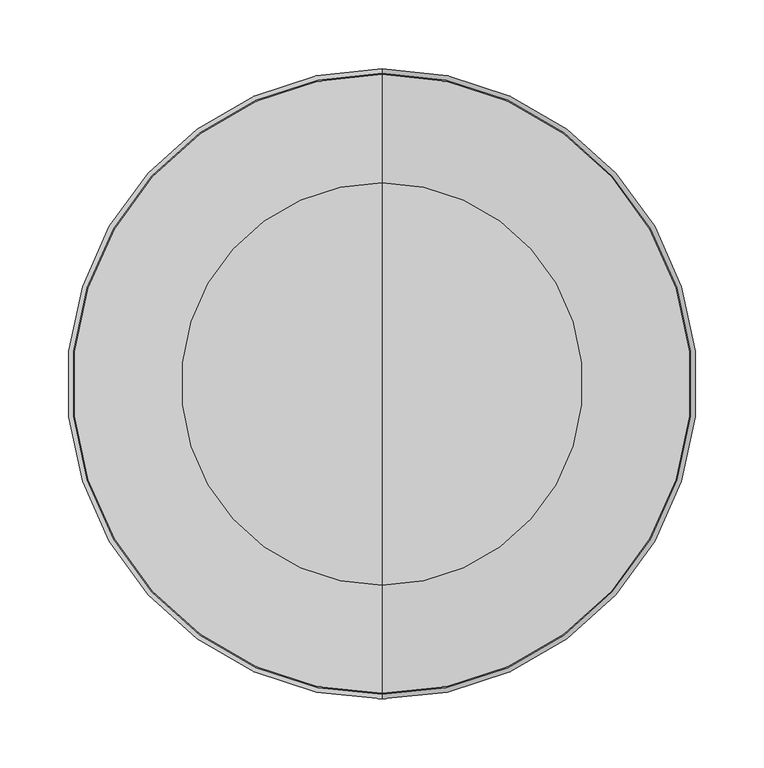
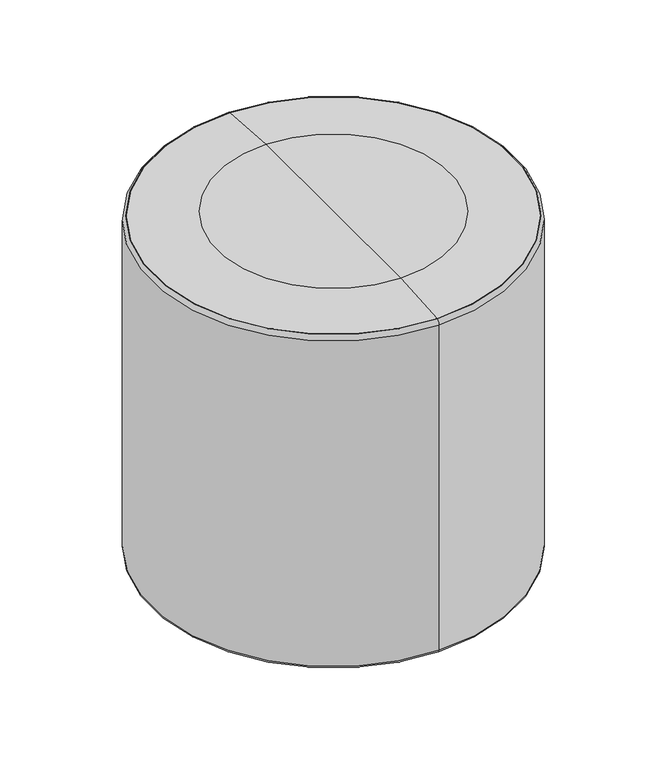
"""IFC4 building model written with IfcOpenShell, lengths in millimetres: furniture geometry, Indiana-Otty-Ottoman_Round : 840-1818RO."""

from ifc_helpers import new_model, si_unit, point, frame, origin, place, context, project, spatial, polyline, circle_curve, ellipse_curve, trimmed, source, transform, mapped, element, save
from ifc_brep_helpers import plane_surface, cylinder_surface, revolved_surface, advanced_brep


def furniture_b2d44463(model_context):
    return source(origin(), model_context, "Body", "AdvancedBrep", [
        advanced_brep(
        [(126.4514457, -129.4834071, 19.8875), (126.4514457, -106.9834071, 19.8875), (126.4514457, -151.9834071, 19.8875), (126.4514457, -107.4318989, 4.2458827), (126.4514457, -151.5349153, 4.2458827), (126.4514457, -111.9170406, -0.1125), (126.4514457, -147.0497736, -0.1125), (126.4514457, -119.2157893, -0.1125), (126.4514457, -139.7510249, -0.1125), (126.4514457, -123.1102654, 3.9179615), (126.4514457, -135.8565488, 3.9179615), (126.4514457, -129.4834071, 3.9179615)],
        [
            (0, 1),
            (1, 2, circle_curve(frame((126.4514457, -129.4834071, 19.8875), z_axis=(0.0, 0.0, 1.0), x_axis=(0.0, 1.0, 0.0)), 22.5)),
            (2, 0),
            (2, 1, circle_curve(frame((126.4514457, -129.4834071, 19.8875), z_axis=(0.0, 0.0, 1.0), x_axis=(0.0, 1.0, 0.0)), 22.5)),
            (1, 3),
            (3, 4, circle_curve(frame((126.4514457, -129.4834071, 4.2458827), z_axis=(0.0, 0.0, 1.0), x_axis=(0.0, 1.0, 0.0)), 22.0515082)),
            (4, 2),
            (4, 3, circle_curve(frame((126.4514457, -129.4834071, 4.2458827), z_axis=(0.0, 0.0, 1.0), x_axis=(0.0, 1.0, 0.0)), 22.0515082)),
            (3, 5, circle_curve(frame((126.4514457, -111.9170406, 4.3744851), z_axis=(-1.0, 0.0, 0.0), x_axis=(0.0, -1.0, 0.0)), 4.4869851)),
            (5, 6, circle_curve(frame((126.4514457, -129.4834071, -0.1125), z_axis=(0.0, 0.0, 1.0), x_axis=(0.0, 1.0, 0.0)), 17.5663665)),
            (6, 4, circle_curve(frame((126.4514457, -147.0497736, 4.3744851), z_axis=(-1.0, 0.0, 0.0), x_axis=(0.0, 1.0, 0.0)), 4.4869851)),
            (6, 5, circle_curve(frame((126.4514457, -129.4834071, -0.1125), z_axis=(0.0, 0.0, 1.0), x_axis=(0.0, 1.0, 0.0)), 17.5663665)),
            (5, 7),
            (7, 8, circle_curve(frame((126.4514457, -129.4834071, -0.1125), z_axis=(0.0, 0.0, 1.0), x_axis=(0.0, 1.0, 0.0)), 10.2676178)),
            (8, 6),
            (8, 7, circle_curve(frame((126.4514457, -129.4834071, -0.1125), z_axis=(0.0, 0.0, 1.0), x_axis=(0.0, 1.0, 0.0)), 10.2676178)),
            (7, 9, circle_curve(frame((126.4514457, -119.2157893, 3.7842702), z_axis=(-1.0, 0.0, 0.0), x_axis=(0.0, -1.0, 0.0)), 3.8967702)),
            (9, 10, circle_curve(frame((126.4514457, -129.4834071, 3.9179615), z_axis=(0.0, 0.0, 1.0), x_axis=(0.0, 1.0, 0.0)), 6.3731417)),
            (10, 8, circle_curve(frame((126.4514457, -139.7510249, 3.7842702), z_axis=(-1.0, 0.0, 0.0), x_axis=(0.0, 1.0, 0.0)), 3.8967702)),
            (10, 9, circle_curve(frame((126.4514457, -129.4834071, 3.9179615), z_axis=(0.0, 0.0, 1.0), x_axis=(0.0, 1.0, 0.0)), 6.3731417)),
            (9, 11),
            (11, 10),
        ],
        [
            plane_surface(frame((126.4514457, -129.4834071, 19.8875), z_axis=(0.0, 0.0, 1.0), x_axis=(0.0, 1.0, 0.0))),
            revolved_surface(polyline([(126.4514457, -107.4318989, 4.2458827), (126.4514457, -106.9834071, 19.8875)]), (126.4514457, -129.4834071, 31.0803862), (0.0, 0.0, 1.0)),
            revolved_surface(trimmed(ellipse_curve(frame((126.4514457, -111.9170406, 4.3744851), z_axis=(1.0, 0.0, 0.0), x_axis=(0.0, -1.0, 0.0)), 4.4869851, 4.4869851), [point((126.4514457, -111.9170406, -0.1125))], [point((126.4514457, -107.4318989, 4.2458827))], True, "CARTESIAN"), (126.4514457, -129.4834071, 31.0803862), (0.0, 0.0, 1.0)),
            plane_surface(frame((126.4514457, -129.4834071, -0.1125), z_axis=(0.0, 0.0, -1.0), x_axis=(0.0, 1.0, 0.0))),
            revolved_surface(trimmed(ellipse_curve(frame((126.4514457, -119.2157893, 3.7842702), z_axis=(1.0, 0.0, 0.0), x_axis=(0.0, -1.0, 0.0)), 3.8967702, 3.8967702), [point((126.4514457, -123.1102654, 3.9179615))], [point((126.4514457, -119.2157893, -0.1125))], True, "CARTESIAN"), (126.4514457, -129.4834071, 31.0803862), (0.0, 0.0, 1.0)),
            plane_surface(frame((126.4514457, -129.4834071, 3.9179615), z_axis=(0.0, 0.0, -1.0), x_axis=(0.0, 1.0, 0.0))),
        ],
        [
            (0, [[1, 2, 3]]),
            (0, [[-3, 4, -1]]),
            (1, [[-2, 5, 6, 7]]),
            (1, [[-4, -7, 8, -5]]),
            (2, [[-6, 9, 10, 11]]),
            (2, [[-8, -11, 12, -9]]),
            (3, [[-10, 13, 14, 15]]),
            (3, [[-12, -15, 16, -13]]),
            (4, [[-14, 17, 18, 19]]),
            (4, [[-16, -19, 20, -17]]),
            (5, [[-18, 21, 22]]),
            (5, [[-20, -22, -21]]),
        ],
    ),
        advanced_brep(
        [(-129.4834071, -126.4514457, 19.8875), (-106.9834071, -126.4514457, 19.8875), (-151.9834071, -126.4514457, 19.8875), (-107.4318989, -126.4514457, 4.2458827), (-151.5349153, -126.4514457, 4.2458827), (-111.9170406, -126.4514457, -0.1125), (-147.0497736, -126.4514457, -0.1125), (-119.2157893, -126.4514457, -0.1125), (-139.7510249, -126.4514457, -0.1125), (-123.1102654, -126.4514457, 3.9179615), (-135.8565488, -126.4514457, 3.9179615), (-129.4834071, -126.4514457, 3.9179615)],
        [
            (0, 1),
            (1, 2, circle_curve(frame((-129.4834071, -126.4514457, 19.8875), z_axis=(0.0, 0.0, 1.0), x_axis=(1.0, 0.0, 0.0)), 22.5)),
            (2, 0),
            (2, 1, circle_curve(frame((-129.4834071, -126.4514457, 19.8875), z_axis=(0.0, 0.0, 1.0), x_axis=(1.0, 0.0, 0.0)), 22.5)),
            (1, 3),
            (3, 4, circle_curve(frame((-129.4834071, -126.4514457, 4.2458827), z_axis=(0.0, 0.0, 1.0), x_axis=(1.0, 0.0, 0.0)), 22.0515082)),
            (4, 2),
            (4, 3, circle_curve(frame((-129.4834071, -126.4514457, 4.2458827), z_axis=(0.0, 0.0, 1.0), x_axis=(1.0, 0.0, 0.0)), 22.0515082)),
            (3, 5, circle_curve(frame((-111.9170406, -126.4514457, 4.3744851), z_axis=(0.0, 1.0, 0.0), x_axis=(-1.0, 0.0, 0.0)), 4.4869851)),
            (5, 6, circle_curve(frame((-129.4834071, -126.4514457, -0.1125), z_axis=(0.0, 0.0, 1.0), x_axis=(1.0, 0.0, 0.0)), 17.5663665)),
            (6, 4, circle_curve(frame((-147.0497736, -126.4514457, 4.3744851), z_axis=(0.0, 1.0, 0.0), x_axis=(1.0, 0.0, 0.0)), 4.4869851)),
            (6, 5, circle_curve(frame((-129.4834071, -126.4514457, -0.1125), z_axis=(0.0, 0.0, 1.0), x_axis=(1.0, 0.0, 0.0)), 17.5663665)),
            (5, 7),
            (7, 8, circle_curve(frame((-129.4834071, -126.4514457, -0.1125), z_axis=(0.0, 0.0, 1.0), x_axis=(1.0, 0.0, 0.0)), 10.2676178)),
            (8, 6),
            (8, 7, circle_curve(frame((-129.4834071, -126.4514457, -0.1125), z_axis=(0.0, 0.0, 1.0), x_axis=(1.0, 0.0, 0.0)), 10.2676178)),
            (7, 9, circle_curve(frame((-119.2157893, -126.4514457, 3.7842702), z_axis=(0.0, 1.0, 0.0), x_axis=(-1.0, 0.0, 0.0)), 3.8967702)),
            (9, 10, circle_curve(frame((-129.4834071, -126.4514457, 3.9179615), z_axis=(0.0, 0.0, 1.0), x_axis=(1.0, 0.0, 0.0)), 6.3731417)),
            (10, 8, circle_curve(frame((-139.7510249, -126.4514457, 3.7842702), z_axis=(0.0, 1.0, 0.0), x_axis=(1.0, 0.0, 0.0)), 3.8967702)),
            (10, 9, circle_curve(frame((-129.4834071, -126.4514457, 3.9179615), z_axis=(0.0, 0.0, 1.0), x_axis=(1.0, 0.0, 0.0)), 6.3731417)),
            (9, 11),
            (11, 10),
        ],
        [
            plane_surface(frame((-129.4834071, -126.4514457, 19.8875), z_axis=(0.0, 0.0, 1.0), x_axis=(1.0, 0.0, 0.0))),
            revolved_surface(polyline([(-107.4318989, -126.4514457, 4.2458827), (-106.9834071, -126.4514457, 19.8875)]), (-129.4834071, -126.4514457, 31.0803862), (0.0, 0.0, 1.0)),
            revolved_surface(trimmed(ellipse_curve(frame((-111.9170406, -126.4514457, 4.3744851), z_axis=(0.0, -1.0, 0.0), x_axis=(-1.0, 0.0, 0.0)), 4.4869851, 4.4869851), [point((-111.9170406, -126.4514457, -0.1125))], [point((-107.4318989, -126.4514457, 4.2458827))], True, "CARTESIAN"), (-129.4834071, -126.4514457, 31.0803862), (0.0, 0.0, 1.0)),
            plane_surface(frame((-129.4834071, -126.4514457, -0.1125), z_axis=(0.0, 0.0, -1.0), x_axis=(1.0, 0.0, 0.0))),
            revolved_surface(trimmed(ellipse_curve(frame((-119.2157893, -126.4514457, 3.7842702), z_axis=(0.0, -1.0, 0.0), x_axis=(-1.0, 0.0, 0.0)), 3.8967702, 3.8967702), [point((-123.1102654, -126.4514457, 3.9179615))], [point((-119.2157893, -126.4514457, -0.1125))], True, "CARTESIAN"), (-129.4834071, -126.4514457, 31.0803862), (0.0, 0.0, 1.0)),
            plane_surface(frame((-129.4834071, -126.4514457, 3.9179615), z_axis=(0.0, 0.0, -1.0), x_axis=(1.0, 0.0, 0.0))),
        ],
        [
            (0, [[1, 2, 3]]),
            (0, [[-3, 4, -1]]),
            (1, [[-2, 5, 6, 7]]),
            (1, [[-4, -7, 8, -5]]),
            (2, [[-6, 9, 10, 11]]),
            (2, [[-8, -11, 12, -9]]),
            (3, [[-10, 13, 14, 15]]),
            (3, [[-12, -15, 16, -13]]),
            (4, [[-14, 17, 18, 19]]),
            (4, [[-16, -19, 20, -17]]),
            (5, [[-18, 21, 22]]),
            (5, [[-20, -22, -21]]),
        ],
    ),
        advanced_brep(
        [(129.4834071, 126.4514457, 19.8875), (106.9834071, 126.4514457, 19.8875), (151.9834071, 126.4514457, 19.8875), (107.4318989, 126.4514457, 4.2458827), (151.5349153, 126.4514457, 4.2458827), (111.9170406, 126.4514457, -0.1125), (147.0497736, 126.4514457, -0.1125), (119.2157893, 126.4514457, -0.1125), (139.7510249, 126.4514457, -0.1125), (123.1102654, 126.4514457, 3.9179615), (135.8565488, 126.4514457, 3.9179615), (129.4834071, 126.4514457, 3.9179615)],
        [
            (0, 1),
            (1, 2, circle_curve(frame((129.4834071, 126.4514457, 19.8875), z_axis=(0.0, 0.0, 1.0), x_axis=(-1.0, 0.0, 0.0)), 22.5)),
            (2, 0),
            (2, 1, circle_curve(frame((129.4834071, 126.4514457, 19.8875), z_axis=(0.0, 0.0, 1.0), x_axis=(-1.0, 0.0, 0.0)), 22.5)),
            (1, 3),
            (3, 4, circle_curve(frame((129.4834071, 126.4514457, 4.2458827), z_axis=(0.0, 0.0, 1.0), x_axis=(-1.0, 0.0, 0.0)), 22.0515082)),
            (4, 2),
            (4, 3, circle_curve(frame((129.4834071, 126.4514457, 4.2458827), z_axis=(0.0, 0.0, 1.0), x_axis=(-1.0, 0.0, 0.0)), 22.0515082)),
            (3, 5, circle_curve(frame((111.9170406, 126.4514457, 4.3744851), z_axis=(0.0, -1.0, 0.0), x_axis=(1.0, 0.0, 0.0)), 4.4869851)),
            (5, 6, circle_curve(frame((129.4834071, 126.4514457, -0.1125), z_axis=(0.0, 0.0, 1.0), x_axis=(-1.0, 0.0, 0.0)), 17.5663665)),
            (6, 4, circle_curve(frame((147.0497736, 126.4514457, 4.3744851), z_axis=(0.0, -1.0, 0.0), x_axis=(-1.0, 0.0, 0.0)), 4.4869851)),
            (6, 5, circle_curve(frame((129.4834071, 126.4514457, -0.1125), z_axis=(0.0, 0.0, 1.0), x_axis=(-1.0, 0.0, 0.0)), 17.5663665)),
            (5, 7),
            (7, 8, circle_curve(frame((129.4834071, 126.4514457, -0.1125), z_axis=(0.0, 0.0, 1.0), x_axis=(-1.0, 0.0, 0.0)), 10.2676178)),
            (8, 6),
            (8, 7, circle_curve(frame((129.4834071, 126.4514457, -0.1125), z_axis=(0.0, 0.0, 1.0), x_axis=(-1.0, 0.0, 0.0)), 10.2676178)),
            (7, 9, circle_curve(frame((119.2157893, 126.4514457, 3.7842702), z_axis=(0.0, -1.0, 0.0), x_axis=(1.0, 0.0, 0.0)), 3.8967702)),
            (9, 10, circle_curve(frame((129.4834071, 126.4514457, 3.9179615), z_axis=(0.0, 0.0, 1.0), x_axis=(-1.0, 0.0, 0.0)), 6.3731417)),
            (10, 8, circle_curve(frame((139.7510249, 126.4514457, 3.7842702), z_axis=(0.0, -1.0, 0.0), x_axis=(-1.0, 0.0, 0.0)), 3.8967702)),
            (10, 9, circle_curve(frame((129.4834071, 126.4514457, 3.9179615), z_axis=(0.0, 0.0, 1.0), x_axis=(-1.0, 0.0, 0.0)), 6.3731417)),
            (9, 11),
            (11, 10),
        ],
        [
            plane_surface(frame((129.4834071, 126.4514457, 19.8875), z_axis=(0.0, 0.0, 1.0), x_axis=(-1.0, 0.0, 0.0))),
            revolved_surface(polyline([(107.4318989, 126.4514457, 4.2458827), (106.9834071, 126.4514457, 19.8875)]), (129.4834071, 126.4514457, 31.0803862), (0.0, 0.0, 1.0)),
            revolved_surface(trimmed(ellipse_curve(frame((111.9170406, 126.4514457, 4.3744851), z_axis=(0.0, 1.0, 0.0), x_axis=(1.0, 0.0, 0.0)), 4.4869851, 4.4869851), [point((111.9170406, 126.4514457, -0.1125))], [point((107.4318989, 126.4514457, 4.2458827))], True, "CARTESIAN"), (129.4834071, 126.4514457, 31.0803862), (0.0, 0.0, 1.0)),
            plane_surface(frame((129.4834071, 126.4514457, -0.1125), z_axis=(0.0, 0.0, -1.0), x_axis=(-1.0, 0.0, 0.0))),
            revolved_surface(trimmed(ellipse_curve(frame((119.2157893, 126.4514457, 3.7842702), z_axis=(0.0, 1.0, 0.0), x_axis=(1.0, 0.0, 0.0)), 3.8967702, 3.8967702), [point((123.1102654, 126.4514457, 3.9179615))], [point((119.2157893, 126.4514457, -0.1125))], True, "CARTESIAN"), (129.4834071, 126.4514457, 31.0803862), (0.0, 0.0, 1.0)),
            plane_surface(frame((129.4834071, 126.4514457, 3.9179615), z_axis=(0.0, 0.0, -1.0), x_axis=(-1.0, 0.0, 0.0))),
        ],
        [
            (0, [[1, 2, 3]]),
            (0, [[-3, 4, -1]]),
            (1, [[-2, 5, 6, 7]]),
            (1, [[-4, -7, 8, -5]]),
            (2, [[-6, 9, 10, 11]]),
            (2, [[-8, -11, 12, -9]]),
            (3, [[-10, 13, 14, 15]]),
            (3, [[-12, -15, 16, -13]]),
            (4, [[-14, 17, 18, 19]]),
            (4, [[-16, -19, 20, -17]]),
            (5, [[-18, 21, 22]]),
            (5, [[-20, -22, -21]]),
        ],
    ),
        advanced_brep(
        [(-126.4514457, 129.4834071, 19.8875), (-126.4514457, 106.9834071, 19.8875), (-126.4514457, 151.9834071, 19.8875), (-126.4514457, 107.4318989, 4.2458827), (-126.4514457, 151.5349153, 4.2458827), (-126.4514457, 111.9170406, -0.1125), (-126.4514457, 147.0497736, -0.1125), (-126.4514457, 119.2157893, -0.1125), (-126.4514457, 139.7510249, -0.1125), (-126.4514457, 123.1102654, 3.9179615), (-126.4514457, 135.8565488, 3.9179615), (-126.4514457, 129.4834071, 3.9179615)],
        [
            (0, 1),
            (1, 2, circle_curve(frame((-126.4514457, 129.4834071, 19.8875), z_axis=(0.0, 0.0, 1.0), x_axis=(0.0, -1.0, 0.0)), 22.5)),
            (2, 0),
            (2, 1, circle_curve(frame((-126.4514457, 129.4834071, 19.8875), z_axis=(0.0, 0.0, 1.0), x_axis=(0.0, -1.0, 0.0)), 22.5)),
            (1, 3),
            (3, 4, circle_curve(frame((-126.4514457, 129.4834071, 4.2458827), z_axis=(0.0, 0.0, 1.0), x_axis=(0.0, -1.0, 0.0)), 22.0515082)),
            (4, 2),
            (4, 3, circle_curve(frame((-126.4514457, 129.4834071, 4.2458827), z_axis=(0.0, 0.0, 1.0), x_axis=(0.0, -1.0, 0.0)), 22.0515082)),
            (3, 5, circle_curve(frame((-126.4514457, 111.9170406, 4.3744851), z_axis=(1.0, 0.0, 0.0), x_axis=(0.0, 1.0, 0.0)), 4.4869851)),
            (5, 6, circle_curve(frame((-126.4514457, 129.4834071, -0.1125), z_axis=(0.0, 0.0, 1.0), x_axis=(0.0, -1.0, 0.0)), 17.5663665)),
            (6, 4, circle_curve(frame((-126.4514457, 147.0497736, 4.3744851), z_axis=(1.0, 0.0, 0.0), x_axis=(0.0, -1.0, 0.0)), 4.4869851)),
            (6, 5, circle_curve(frame((-126.4514457, 129.4834071, -0.1125), z_axis=(0.0, 0.0, 1.0), x_axis=(0.0, -1.0, 0.0)), 17.5663665)),
            (5, 7),
            (7, 8, circle_curve(frame((-126.4514457, 129.4834071, -0.1125), z_axis=(0.0, 0.0, 1.0), x_axis=(0.0, -1.0, 0.0)), 10.2676178)),
            (8, 6),
            (8, 7, circle_curve(frame((-126.4514457, 129.4834071, -0.1125), z_axis=(0.0, 0.0, 1.0), x_axis=(0.0, -1.0, 0.0)), 10.2676178)),
            (7, 9, circle_curve(frame((-126.4514457, 119.2157893, 3.7842702), z_axis=(1.0, 0.0, 0.0), x_axis=(0.0, 1.0, 0.0)), 3.8967702)),
            (9, 10, circle_curve(frame((-126.4514457, 129.4834071, 3.9179615), z_axis=(0.0, 0.0, 1.0), x_axis=(0.0, -1.0, 0.0)), 6.3731417)),
            (10, 8, circle_curve(frame((-126.4514457, 139.7510249, 3.7842702), z_axis=(1.0, 0.0, 0.0), x_axis=(0.0, -1.0, 0.0)), 3.8967702)),
            (10, 9, circle_curve(frame((-126.4514457, 129.4834071, 3.9179615), z_axis=(0.0, 0.0, 1.0), x_axis=(0.0, -1.0, 0.0)), 6.3731417)),
            (9, 11),
            (11, 10),
        ],
        [
            plane_surface(frame((-126.4514457, 129.4834071, 19.8875), z_axis=(0.0, 0.0, 1.0), x_axis=(0.0, -1.0, 0.0))),
            revolved_surface(polyline([(-126.4514457, 107.4318989, 4.2458827), (-126.4514457, 106.9834071, 19.8875)]), (-126.4514457, 129.4834071, 31.0803862), (0.0, 0.0, 1.0)),
            revolved_surface(trimmed(ellipse_curve(frame((-126.4514457, 111.9170406, 4.3744851), z_axis=(-1.0, 0.0, 0.0), x_axis=(0.0, 1.0, 0.0)), 4.4869851, 4.4869851), [point((-126.4514457, 111.9170406, -0.1125))], [point((-126.4514457, 107.4318989, 4.2458827))], True, "CARTESIAN"), (-126.4514457, 129.4834071, 31.0803862), (0.0, 0.0, 1.0)),
            plane_surface(frame((-126.4514457, 129.4834071, -0.1125), z_axis=(0.0, 0.0, -1.0), x_axis=(0.0, -1.0, 0.0))),
            revolved_surface(trimmed(ellipse_curve(frame((-126.4514457, 119.2157893, 3.7842702), z_axis=(-1.0, 0.0, 0.0), x_axis=(0.0, 1.0, 0.0)), 3.8967702, 3.8967702), [point((-126.4514457, 123.1102654, 3.9179615))], [point((-126.4514457, 119.2157893, -0.1125))], True, "CARTESIAN"), (-126.4514457, 129.4834071, 31.0803862), (0.0, 0.0, 1.0)),
            plane_surface(frame((-126.4514457, 129.4834071, 3.9179615), z_axis=(0.0, 0.0, -1.0), x_axis=(0.0, -1.0, 0.0))),
        ],
        [
            (0, [[1, 2, 3]]),
            (0, [[-3, 4, -1]]),
            (1, [[-2, 5, 6, 7]]),
            (1, [[-4, -7, 8, -5]]),
            (2, [[-6, 9, 10, 11]]),
            (2, [[-8, -11, 12, -9]]),
            (3, [[-10, 13, 14, 15]]),
            (3, [[-12, -15, 16, -13]]),
            (4, [[-14, 17, 18, 19]]),
            (4, [[-16, -19, 20, -17]]),
            (5, [[-18, 21, 22]]),
            (5, [[-20, -22, -21]]),
        ],
    ),
        advanced_brep(
        [(0.0, 228.6, 14.675), (0.0, 225.425, 11.5), (0.0, -225.425, 11.5), (0.0, -228.6, 14.675), (0.0, 228.6, 445.2), (0.0, -228.6, 445.2), (0.0, 225.3317905, 451.4073863), (0.0, -225.3317905, 451.4073863), (0.0, 224.6, 451.1999966), (0.0, -224.6, 451.1999966), (0.0, 146.05, 457.2), (0.0, -146.05, 457.2), (0.0, 0.0, 457.2), (0.0, 0.0, 11.5), (-129.4834071, -149.4701957, 11.5), (-129.4834071, -103.4326957, 11.5), (-149.4701957, 129.4834071, 11.5), (-103.4326957, 129.4834071, 11.5), (149.4701957, -129.4834071, 11.5), (103.4326957, -129.4834071, 11.5), (129.4834071, 149.4701957, 11.5), (129.4834071, 103.4326957, 11.5), (-129.4834071, -103.4326957, 19.834375), (-129.4834071, -149.4701957, 19.834375), (103.4326957, -129.4834071, 19.834375), (149.4701957, -129.4834071, 19.834375), (129.4834071, 103.4326957, 19.834375), (129.4834071, 149.4701957, 19.834375), (-103.4326957, 129.4834071, 19.834375), (-149.4701957, 129.4834071, 19.834375)],
        [
            (0, 1, circle_curve(frame((0.0, 225.425, 14.675), z_axis=(-1.0, 0.0, 0.0), x_axis=(0.0, 1.0, 0.0)), 3.175)),
            (1, 2, circle_curve(frame((0.0, 0.0, 11.5), z_axis=(0.0, 0.0, 1.0), x_axis=(0.0, 1.0, 0.0)), 225.425)),
            (2, 3, circle_curve(frame((0.0, -225.425, 14.675), z_axis=(-1.0, 0.0, 0.0), x_axis=(0.0, -1.0, 0.0)), 3.175)),
            (3, 0, circle_curve(frame((0.0, 0.0, 14.675), z_axis=(0.0, 0.0, -1.0), x_axis=(0.0, 1.0, 0.0)), 228.6)),
            (0, 3, circle_curve(frame((0.0, 0.0, 14.675), z_axis=(0.0, 0.0, -1.0), x_axis=(0.0, 1.0, 0.0)), 228.6)),
            (2, 1, circle_curve(frame((0.0, 0.0, 11.5), z_axis=(0.0, 0.0, 1.0), x_axis=(0.0, 1.0, 0.0)), 225.425)),
            (4, 0),
            (3, 5),
            (5, 4, circle_curve(frame((0.0, 0.0, 445.2), z_axis=(0.0, 0.0, -1.0), x_axis=(0.0, 1.0, 0.0)), 228.6)),
            (4, 5, circle_curve(frame((0.0, 0.0, 445.2), z_axis=(0.0, 0.0, -1.0), x_axis=(0.0, 1.0, 0.0)), 228.6)),
            (6, 4, circle_curve(frame((0.0, 221.0709786, 445.2), z_axis=(-1.0, 0.0, 0.0), x_axis=(0.0, 1.0, 0.0)), 7.5290214)),
            (5, 7, circle_curve(frame((0.0, -221.0709786, 445.2), z_axis=(-1.0, 0.0, 0.0), x_axis=(0.0, -1.0, 0.0)), 7.5290214)),
            (7, 6, circle_curve(frame((0.0, 0.0, 451.4073863), z_axis=(0.0, 0.0, -1.0), x_axis=(0.0, 1.0, 0.0)), 225.3317905)),
            (6, 7, circle_curve(frame((0.0, 0.0, 451.4073863), z_axis=(0.0, 0.0, -1.0), x_axis=(0.0, 1.0, 0.0)), 225.3317905)),
            (8, 6, circle_curve(frame((0.0, 225.0520185, 450.999799), z_axis=(-1.0, 0.0, 0.0), x_axis=(0.0, 1.0, 0.0)), 0.4943681)),
            (7, 9, circle_curve(frame((0.0, -225.0520185, 450.999799), z_axis=(-1.0, 0.0, 0.0), x_axis=(0.0, -1.0, 0.0)), 0.4943681)),
            (9, 8, circle_curve(frame((0.0, 0.0, 451.1999966), z_axis=(0.0, 0.0, -1.0), x_axis=(0.0, 1.0, 0.0)), 224.6)),
            (8, 9, circle_curve(frame((0.0, 0.0, 451.1999966), z_axis=(0.0, 0.0, -1.0), x_axis=(0.0, 1.0, 0.0)), 224.6)),
            (10, 8, circle_curve(frame((0.0, 146.05, -59.9749222), z_axis=(-1.0, 0.0, 0.0), x_axis=(0.0, 1.0, 0.0)), 517.1749222)),
            (9, 11, circle_curve(frame((0.0, -146.05, -59.9749222), z_axis=(-1.0, 0.0, 0.0), x_axis=(0.0, -1.0, 0.0)), 517.1749222)),
            (11, 10, circle_curve(frame((0.0, 0.0, 457.2), z_axis=(0.0, 0.0, -1.0), x_axis=(0.0, 1.0, 0.0)), 146.05)),
            (10, 11, circle_curve(frame((0.0, 0.0, 457.2), z_axis=(0.0, 0.0, -1.0), x_axis=(0.0, 1.0, 0.0)), 146.05)),
            (12, 10),
            (11, 12),
            (1, 13),
            (13, 2),
            (14, 15, circle_curve(frame((-129.4834071, -126.4514457, 11.5), z_axis=(0.0, 0.0, 1.0), x_axis=(0.0, -1.0, 0.0)), 23.01875)),
            (15, 14, circle_curve(frame((-129.4834071, -126.4514457, 11.5), z_axis=(0.0, 0.0, 1.0), x_axis=(0.0, -1.0, 0.0)), 23.01875)),
            (16, 17, circle_curve(frame((-126.4514457, 129.4834071, 11.5), z_axis=(0.0, 0.0, 1.0), x_axis=(-1.0, 0.0, 0.0)), 23.01875)),
            (17, 16, circle_curve(frame((-126.4514457, 129.4834071, 11.5), z_axis=(0.0, 0.0, 1.0), x_axis=(-1.0, 0.0, 0.0)), 23.01875)),
            (18, 19, circle_curve(frame((126.4514457, -129.4834071, 11.5), z_axis=(0.0, 0.0, 1.0), x_axis=(1.0, 0.0, 0.0)), 23.01875)),
            (19, 18, circle_curve(frame((126.4514457, -129.4834071, 11.5), z_axis=(0.0, 0.0, 1.0), x_axis=(1.0, 0.0, 0.0)), 23.01875)),
            (20, 21, circle_curve(frame((129.4834071, 126.4514457, 11.5), z_axis=(0.0, 0.0, 1.0), x_axis=(0.0, 1.0, 0.0)), 23.01875)),
            (21, 20, circle_curve(frame((129.4834071, 126.4514457, 11.5), z_axis=(0.0, 0.0, 1.0), x_axis=(0.0, 1.0, 0.0)), 23.01875)),
            (22, 23, circle_curve(frame((-129.4834071, -126.4514457, 19.834375), z_axis=(0.0, 0.0, -1.0), x_axis=(0.0, -1.0, 0.0)), 23.01875)),
            (23, 22, circle_curve(frame((-129.4834071, -126.4514457, 19.834375), z_axis=(0.0, 0.0, -1.0), x_axis=(0.0, -1.0, 0.0)), 23.01875)),
            (22, 15),
            (14, 23),
            (24, 25, circle_curve(frame((126.4514457, -129.4834071, 19.834375), z_axis=(0.0, 0.0, -1.0), x_axis=(1.0, 0.0, 0.0)), 23.01875)),
            (25, 24, circle_curve(frame((126.4514457, -129.4834071, 19.834375), z_axis=(0.0, 0.0, -1.0), x_axis=(1.0, 0.0, 0.0)), 23.01875)),
            (24, 19),
            (18, 25),
            (26, 27, circle_curve(frame((129.4834071, 126.4514457, 19.834375), z_axis=(0.0, 0.0, -1.0), x_axis=(0.0, 1.0, 0.0)), 23.01875)),
            (27, 26, circle_curve(frame((129.4834071, 126.4514457, 19.834375), z_axis=(0.0, 0.0, -1.0), x_axis=(0.0, 1.0, 0.0)), 23.01875)),
            (26, 21),
            (20, 27),
            (28, 29, circle_curve(frame((-126.4514457, 129.4834071, 19.834375), z_axis=(0.0, 0.0, -1.0), x_axis=(-1.0, 0.0, 0.0)), 23.01875)),
            (29, 28, circle_curve(frame((-126.4514457, 129.4834071, 19.834375), z_axis=(0.0, 0.0, -1.0), x_axis=(-1.0, 0.0, 0.0)), 23.01875)),
            (28, 17),
            (16, 29),
        ],
        [
            revolved_surface(trimmed(ellipse_curve(frame((0.0, 225.425, 14.675), z_axis=(1.0, 0.0, 0.0), x_axis=(0.0, 1.0, 0.0)), 3.175, 3.175), [point((0.0, 225.425, 11.5))], [point((0.0, 228.6, 14.675))], True, "CARTESIAN"), (0.0, 0.0, 711.2), (0.0, 0.0, 1.0)),
            cylinder_surface(frame((0.0, 0.0, 711.2), z_axis=(0.0, 0.0, 1.0), x_axis=(0.0, 1.0, 0.0)), 228.6),
            revolved_surface(trimmed(ellipse_curve(frame((0.0, 221.0709786, 445.2), z_axis=(1.0, 0.0, 0.0), x_axis=(0.0, 1.0, 0.0)), 7.5290214, 7.5290214), [point((0.0, 228.6, 445.2))], [point((0.0, 225.3317905, 451.4073863))], True, "CARTESIAN"), (0.0, 0.0, 711.2), (0.0, 0.0, 1.0)),
            revolved_surface(trimmed(ellipse_curve(frame((0.0, 225.0520185, 450.999799), z_axis=(1.0, 0.0, 0.0), x_axis=(0.0, 1.0, 0.0)), 0.4943681, 0.4943681), [point((0.0, 225.3317905, 451.4073863))], [point((0.0, 224.6, 451.1999966))], True, "CARTESIAN"), (0.0, 0.0, 711.2), (0.0, 0.0, 1.0)),
            revolved_surface(trimmed(ellipse_curve(frame((0.0, 146.05, -59.9749222), z_axis=(1.0, 0.0, 0.0), x_axis=(0.0, 1.0, 0.0)), 517.1749222, 517.1749222), [point((0.0, 224.6, 451.1999966))], [point((0.0, 146.05, 457.2))], True, "CARTESIAN"), (0.0, 0.0, 711.2), (0.0, 0.0, 1.0)),
            plane_surface(frame((0.0, 0.0, 457.2), z_axis=(0.0, 0.0, 1.0), x_axis=(0.0, 1.0, 0.0))),
            plane_surface(frame((0.0, 0.0, 11.5), z_axis=(0.0, 0.0, -1.0), x_axis=(0.0, 1.0, 0.0))),
            plane_surface(frame((-129.4834071, -149.4701957, 19.834375), z_axis=(0.0, 0.0, -1.0), x_axis=(1.0, 0.0, 0.0))),
            revolved_surface(polyline([(-129.4834071, -149.4701957, 11.5), (-129.4834071, -149.4701957, 19.834375)]), (-129.4834071, -126.4514457, 19.834375), (0.0, 0.0, -1.0)),
            plane_surface(frame((149.4701957, -129.4834071, 19.834375), z_axis=(0.0, 0.0, -1.0), x_axis=(0.0, 1.0, 0.0))),
            revolved_surface(polyline([(149.4701957, -129.4834071, 11.5), (149.4701957, -129.4834071, 19.834375)]), (126.4514457, -129.4834071, 19.834375), (0.0, 0.0, -1.0)),
            plane_surface(frame((129.4834071, 149.4701957, 19.834375), z_axis=(0.0, 0.0, -1.0), x_axis=(-1.0, 0.0, 0.0))),
            revolved_surface(polyline([(129.4834071, 149.4701957, 11.5), (129.4834071, 149.4701957, 19.834375)]), (129.4834071, 126.4514457, 19.834375), (0.0, 0.0, -1.0)),
            plane_surface(frame((-149.4701957, 129.4834071, 19.834375), z_axis=(0.0, 0.0, -1.0), x_axis=(0.0, -1.0, 0.0))),
            revolved_surface(polyline([(-149.4701957, 129.4834071, 11.5), (-149.4701957, 129.4834071, 19.834375)]), (-126.4514457, 129.4834071, 19.834375), (0.0, 0.0, -1.0)),
        ],
        [
            (0, [[1, 2, 3, 4]]),
            (0, [[-1, 5, -3, 6]]),
            (1, [[7, -4, 8, 9]]),
            (1, [[-7, 10, -8, -5]]),
            (2, [[11, -9, 12, 13]]),
            (2, [[-11, 14, -12, -10]]),
            (3, [[15, -13, 16, 17]]),
            (3, [[-15, 18, -16, -14]]),
            (4, [[19, -17, 20, 21]]),
            (4, [[-19, 22, -20, -18]]),
            (5, [[23, -21, 24]]),
            (5, [[-23, -24, -22]]),
            (6, [[25, 26, -2], [27, 28], [29, 30]]),
            (6, [[-25, -6, -26], [31, 32], [33, 34]]),
            (7, [[35, 36]]),
            (8, [[-35, 37, -27, 38]]),
            (8, [[-36, -38, -28, -37]]),
            (9, [[39, 40]]),
            (10, [[-39, 41, -31, 42]]),
            (10, [[-40, -42, -32, -41]]),
            (11, [[43, 44]]),
            (12, [[-43, 45, -33, 46]]),
            (12, [[-44, -46, -34, -45]]),
            (13, [[47, 48]]),
            (14, [[-47, 49, -29, 50]]),
            (14, [[-48, -50, -30, -49]]),
        ],
    ),
    ])


if __name__ == "__main__":
    model = new_model("IFC4")
    model_context = context("Model", 3, world=origin())
    ifc_project = project(units=[si_unit("LENGTHUNIT", "METRE", prefix="MILLI")], contexts=[model_context])
    site = spatial("IfcSite", under=ifc_project)
    building = spatial("IfcBuilding", under=site)
    placement = place(None, origin())
    furniture_shape = furniture_b2d44463(model_context)
    element("IfcFurniture", 1, ObjectType="Indiana-Otty-Ottoman_Round : 840-1818RO", at=placement, inside=building, context=model_context, shape_type="MappedRepresentation", body=[
        mapped(furniture_shape, transform((0.0, 0.0, 0.0), x_axis=(1.0, 0.0, 0.0), y_axis=(0.0, 1.0, 0.0), z_axis=(0.0, 0.0, 1.0))),
    ])
    save(model, "model.ifc")
